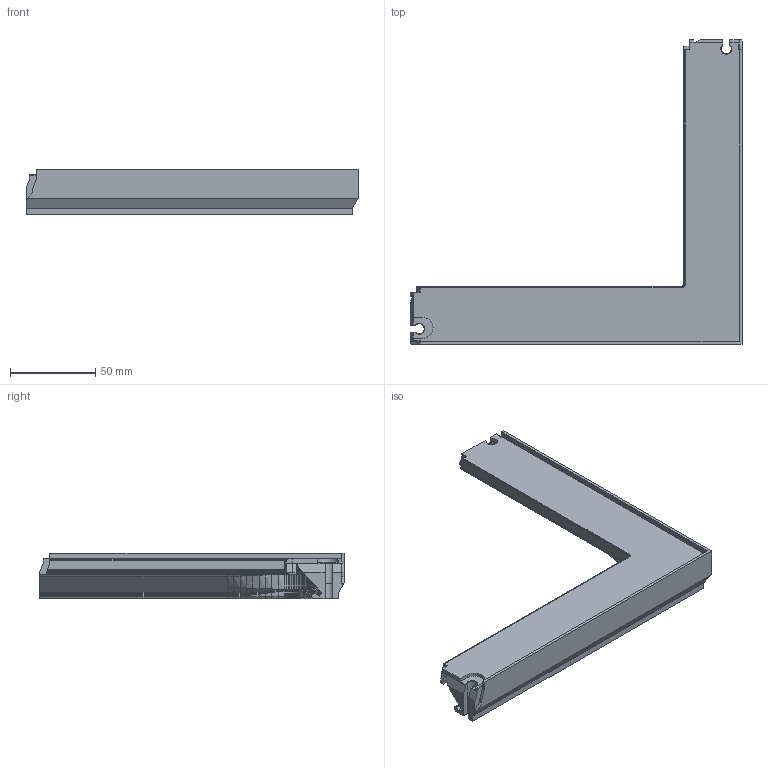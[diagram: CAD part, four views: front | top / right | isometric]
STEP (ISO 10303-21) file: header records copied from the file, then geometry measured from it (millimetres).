
FILE_DESCRIPTION(('Open CASCADE Model'),'2;1');
FILE_NAME('Open CASCADE Shape Model','2026-10-27T10:19:29',('Author'),( 'Open CASCADE'),'Open CASCADE STEP processor 8.0','build123d', 'Unknown');
FILE_SCHEMA(('AUTOMOTIVE_DESIGN { 1 0 10303 214 1 1 1 1 }'));
Products named in the file (1): SOLID
Bounding box: 195.1 x 179.1 x 26.9 mm (x, y, z)
Volume: 185771.9 mm3; surface area: 47475.4 mm2
Topology: 1 solids, 1 shells, 2239 faces, 4786 edges, 2550 vertices
Faces by surface type: bspline 1846, plane 385, cone 6, cylinder 2
Entity records: 115773 total; most frequent: CARTESIAN_POINT 30569, DIRECTION 10722, LINE 9909, VECTOR 9909, ORIENTED_EDGE 9572, PCURVE 9572, DEFINITIONAL_REPRESENTATION 9572, EDGE_CURVE 4786
